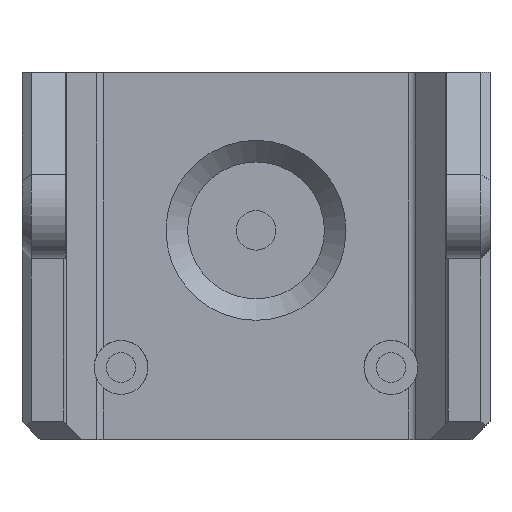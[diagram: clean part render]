
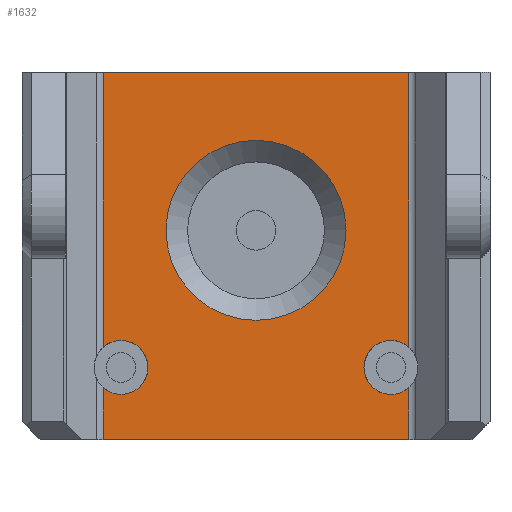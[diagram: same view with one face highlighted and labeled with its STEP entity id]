
A CAD part, top view. The second image highlights one B-rep face of the part: STEP entity #1632.
In plain terms, the highlighted planar face has unit normal (0, 0, 1).
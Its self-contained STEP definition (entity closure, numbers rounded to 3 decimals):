
#77=FACE_BOUND('',#565,.T.);
#121=LINE('',#2438,#264);
#156=LINE('',#2563,#299);
#157=LINE('',#2573,#300);
#164=LINE('',#2596,#307);
#219=LINE('',#2784,#362);
#220=LINE('',#2785,#363);
#264=VECTOR('',#1924,10.);
#299=VECTOR('',#2035,10.);
#300=VECTOR('',#2038,10.);
#307=VECTOR('',#2051,10.);
#362=VECTOR('',#2254,10.);
#363=VECTOR('',#2255,10.);
#453=FACE_OUTER_BOUND('',#564,.T.);
#564=EDGE_LOOP('',(#1363,#1364,#1365,#1366,#1367,#1368,#1369,#1370,#1371));
#565=EDGE_LOOP('',(#1372));
#634=CIRCLE('',#1720,10.);
#642=CIRCLE('',#1738,3.);
#643=CIRCLE('',#1739,3.);
#646=CIRCLE('',#1745,3.);
#704=VERTEX_POINT('',#2435);
#705=VERTEX_POINT('',#2437);
#744=VERTEX_POINT('',#2537);
#748=VERTEX_POINT('',#2551);
#751=VERTEX_POINT('',#2561);
#753=VERTEX_POINT('',#2566);
#759=VERTEX_POINT('',#2588);
#760=VERTEX_POINT('',#2595);
#763=VERTEX_POINT('',#2604);
#764=VERTEX_POINT('',#2606);
#858=EDGE_CURVE('',#705,#704,#121,.T.);
#908=EDGE_CURVE('',#744,#744,#634,.T.);
#917=EDGE_CURVE('',#751,#748,#156,.T.);
#919=EDGE_CURVE('',#753,#704,#157,.T.);
#928=EDGE_CURVE('',#759,#760,#164,.T.);
#932=EDGE_CURVE('',#759,#763,#642,.T.);
#934=EDGE_CURVE('',#763,#764,#643,.T.);
#939=EDGE_CURVE('',#753,#748,#646,.T.);
#1019=EDGE_CURVE('',#705,#764,#219,.T.);
#1020=EDGE_CURVE('',#760,#751,#220,.T.);
#1363=ORIENTED_EDGE('',*,*,#932,.T.);
#1364=ORIENTED_EDGE('',*,*,#934,.T.);
#1365=ORIENTED_EDGE('',*,*,#1019,.F.);
#1366=ORIENTED_EDGE('',*,*,#858,.T.);
#1367=ORIENTED_EDGE('',*,*,#919,.F.);
#1368=ORIENTED_EDGE('',*,*,#939,.T.);
#1369=ORIENTED_EDGE('',*,*,#917,.F.);
#1370=ORIENTED_EDGE('',*,*,#1020,.F.);
#1371=ORIENTED_EDGE('',*,*,#928,.F.);
#1372=ORIENTED_EDGE('',*,*,#908,.T.);
#1547=PLANE('',#1806);
#1632=ADVANCED_FACE('',(#453,#77),#1547,.T.);
#1720=AXIS2_PLACEMENT_3D('',#2538,#2014,#2015);
#1738=AXIS2_PLACEMENT_3D('',#2605,#2062,#2063);
#1739=AXIS2_PLACEMENT_3D('',#2613,#2064,#2065);
#1745=AXIS2_PLACEMENT_3D('',#2623,#2078,#2079);
#1806=AXIS2_PLACEMENT_3D('',#2783,#2252,#2253);
#1924=DIRECTION('',(-1.,0.,0.));
#2014=DIRECTION('center_axis',(0.,0.,-1.));
#2015=DIRECTION('ref_axis',(-1.,0.,0.));
#2035=DIRECTION('',(0.,1.,0.));
#2038=DIRECTION('',(0.,1.,0.));
#2051=DIRECTION('',(0.,-1.,0.));
#2062=DIRECTION('center_axis',(0.,0.,-1.));
#2063=DIRECTION('ref_axis',(1.,0.,0.));
#2064=DIRECTION('center_axis',(0.,0.,-1.));
#2065=DIRECTION('ref_axis',(1.,0.,0.));
#2078=DIRECTION('center_axis',(0.,0.,-1.));
#2079=DIRECTION('ref_axis',(1.,0.,0.));
#2252=DIRECTION('center_axis',(0.,0.,1.));
#2253=DIRECTION('ref_axis',(-1.,0.,0.));
#2254=DIRECTION('',(0.,-1.,0.));
#2255=DIRECTION('',(-1.,0.,0.));
#2435=CARTESIAN_POINT('',(-36.986,-1.8,51.875));
#2437=CARTESIAN_POINT('',(-3.014,-1.8,51.875));
#2438=CARTESIAN_POINT('',(1.4,-1.8,51.875));
#2537=CARTESIAN_POINT('',(-10.,-19.3,51.875));
#2538=CARTESIAN_POINT('Origin',(-20.,-19.3,51.875));
#2551=CARTESIAN_POINT('',(-36.986,-36.782,51.875));
#2561=CARTESIAN_POINT('',(-36.986,-42.533,51.875));
#2563=CARTESIAN_POINT('',(-36.986,-1.8,51.875));
#2566=CARTESIAN_POINT('',(-36.986,-32.285,51.875));
#2573=CARTESIAN_POINT('',(-36.986,-1.8,51.875));
#2588=CARTESIAN_POINT('',(-3.014,-36.782,51.875));
#2595=CARTESIAN_POINT('',(-3.014,-42.533,51.875));
#2596=CARTESIAN_POINT('',(-3.014,-1.8,51.875));
#2604=CARTESIAN_POINT('',(-8.,-34.533,51.875));
#2605=CARTESIAN_POINT('Origin',(-5.,-34.533,51.875));
#2606=CARTESIAN_POINT('',(-3.014,-32.285,51.875));
#2613=CARTESIAN_POINT('Origin',(-5.,-34.533,51.875));
#2623=CARTESIAN_POINT('Origin',(-35.,-34.533,51.875));
#2783=CARTESIAN_POINT('Origin',(1.4,-1.8,51.875));
#2784=CARTESIAN_POINT('',(-3.014,-1.8,51.875));
#2785=CARTESIAN_POINT('',(1.4,-42.533,51.875));
